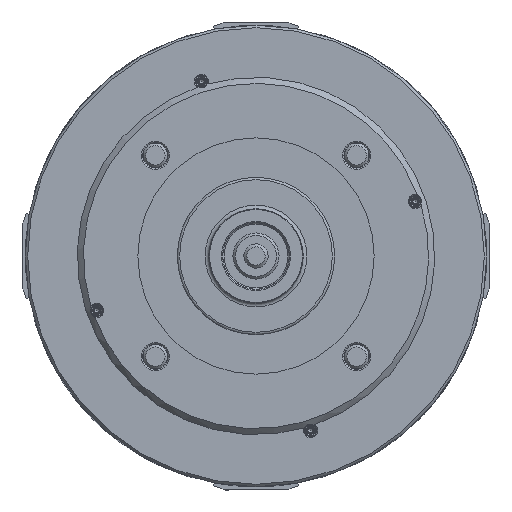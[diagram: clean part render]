
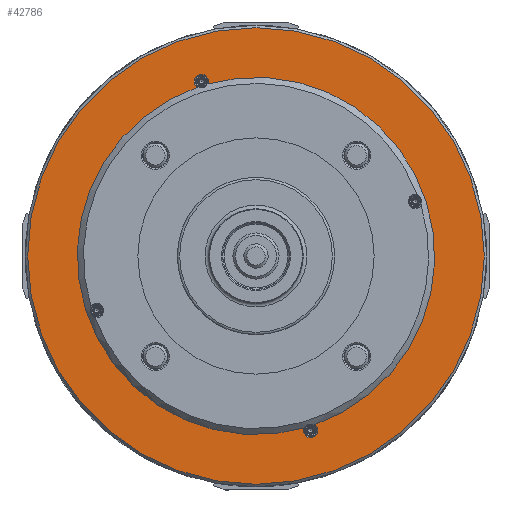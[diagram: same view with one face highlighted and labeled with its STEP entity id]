
A CAD part, left-side view. The second image highlights one B-rep face of the part: STEP entity #42786.
In plain terms, the highlighted planar face has unit normal (-1, 0, 0).
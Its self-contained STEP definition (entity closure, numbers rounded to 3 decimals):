
#5378 = VERTEX_POINT ( 'NONE', #111438 ) ;
#8778 = DIRECTION ( 'NONE',  ( 0., 0., -1. ) ) ;
#10265 = CARTESIAN_POINT ( 'NONE',  ( -130., 45., 144. ) ) ;
#10406 = AXIS2_PLACEMENT_3D ( 'NONE', #84122, #17353, #114585 ) ;
#12017 = CIRCLE ( 'NONE', #62766, 188.5 ) ;
#12280 = ORIENTED_EDGE ( 'NONE', *, *, #53073, .T. ) ;
#16222 = DIRECTION ( 'NONE',  ( 1., 0., 0. ) ) ;
#17353 = DIRECTION ( 'NONE',  ( 1., 0., 0. ) ) ;
#21884 = EDGE_CURVE ( 'NONE', #78905, #5378, #99231, .T. ) ;
#25366 = CARTESIAN_POINT ( 'NONE',  ( -130., 0., -188.5 ) ) ;
#25784 = AXIS2_PLACEMENT_3D ( 'NONE', #121726, #16222, #54390 ) ;
#29501 = EDGE_LOOP ( 'NONE', ( #44632, #124932, #110580, #12280 ) ) ;
#36415 = AXIS2_PLACEMENT_3D ( 'NONE', #76342, #63628, #54127 ) ;
#41428 = DIRECTION ( 'NONE',  ( 0., 0., -1. ) ) ;
#42786 = ADVANCED_FACE ( 'NONE', ( #44878, #123613 ), #46765, .F. ) ;
#43318 = CARTESIAN_POINT ( 'NONE',  ( -130., 0., 0. ) ) ;
#43750 = DIRECTION ( 'NONE',  ( 1., 0., 0. ) ) ;
#44632 = ORIENTED_EDGE ( 'NONE', *, *, #109850, .T. ) ;
#44878 = FACE_OUTER_BOUND ( 'NONE', #102945, .T. ) ;
#46765 = PLANE ( 'NONE',  #25784 ) ;
#50031 = VERTEX_POINT ( 'NONE', #107886 ) ;
#52072 = CIRCLE ( 'NONE', #96693, 147.5 ) ;
#53073 = EDGE_CURVE ( 'NONE', #50031, #92277, #97620, .T. ) ;
#54127 = DIRECTION ( 'NONE',  ( 0., 0., -1. ) ) ;
#54390 = DIRECTION ( 'NONE',  ( 0., 0., -1. ) ) ;
#58339 = DIRECTION ( 'NONE',  ( 1., 0., 0. ) ) ;
#62766 = AXIS2_PLACEMENT_3D ( 'NONE', #106604, #58339, #8778 ) ;
#63628 = DIRECTION ( 'NONE',  ( 1., 0., 0. ) ) ;
#71897 = DIRECTION ( 'NONE',  ( 1., 0., 0. ) ) ;
#76342 = CARTESIAN_POINT ( 'NONE',  ( -130., -45., -144. ) ) ;
#78905 = VERTEX_POINT ( 'NONE', #94602 ) ;
#83487 = CARTESIAN_POINT ( 'NONE',  ( -130., 39.401, 142.14 ) ) ;
#84122 = CARTESIAN_POINT ( 'NONE',  ( -130., 0., 0. ) ) ;
#87417 = ORIENTED_EDGE ( 'NONE', *, *, #110561, .F. ) ;
#89441 = AXIS2_PLACEMENT_3D ( 'NONE', #10265, #43750, #102813 ) ;
#92190 = EDGE_CURVE ( 'NONE', #5378, #50031, #115918, .T. ) ;
#92277 = VERTEX_POINT ( 'NONE', #83487 ) ;
#94602 = CARTESIAN_POINT ( 'NONE',  ( -130., -48.544, -139.283 ) ) ;
#96693 = AXIS2_PLACEMENT_3D ( 'NONE', #43318, #71897, #41428 ) ;
#97620 = CIRCLE ( 'NONE', #89441, 5.9 ) ;
#99231 = CIRCLE ( 'NONE', #36415, 5.9 ) ;
#102813 = DIRECTION ( 'NONE',  ( 0., 0., -1. ) ) ;
#102945 = EDGE_LOOP ( 'NONE', ( #87417 ) ) ;
#106604 = CARTESIAN_POINT ( 'NONE',  ( -130., 0., 0. ) ) ;
#107886 = CARTESIAN_POINT ( 'NONE',  ( -130., 48.544, 139.283 ) ) ;
#109850 = EDGE_CURVE ( 'NONE', #92277, #78905, #52072, .T. ) ;
#110561 = EDGE_CURVE ( 'NONE', #113038, #113038, #12017, .T. ) ;
#110580 = ORIENTED_EDGE ( 'NONE', *, *, #92190, .T. ) ;
#111438 = CARTESIAN_POINT ( 'NONE',  ( -130., -39.401, -142.14 ) ) ;
#113038 = VERTEX_POINT ( 'NONE', #25366 ) ;
#114585 = DIRECTION ( 'NONE',  ( 0., 0., -1. ) ) ;
#115918 = CIRCLE ( 'NONE', #10406, 147.5 ) ;
#121726 = CARTESIAN_POINT ( 'NONE',  ( -130., -147.5, 0. ) ) ;
#123613 = FACE_BOUND ( 'NONE', #29501, .T. ) ;
#124932 = ORIENTED_EDGE ( 'NONE', *, *, #21884, .T. ) ;
